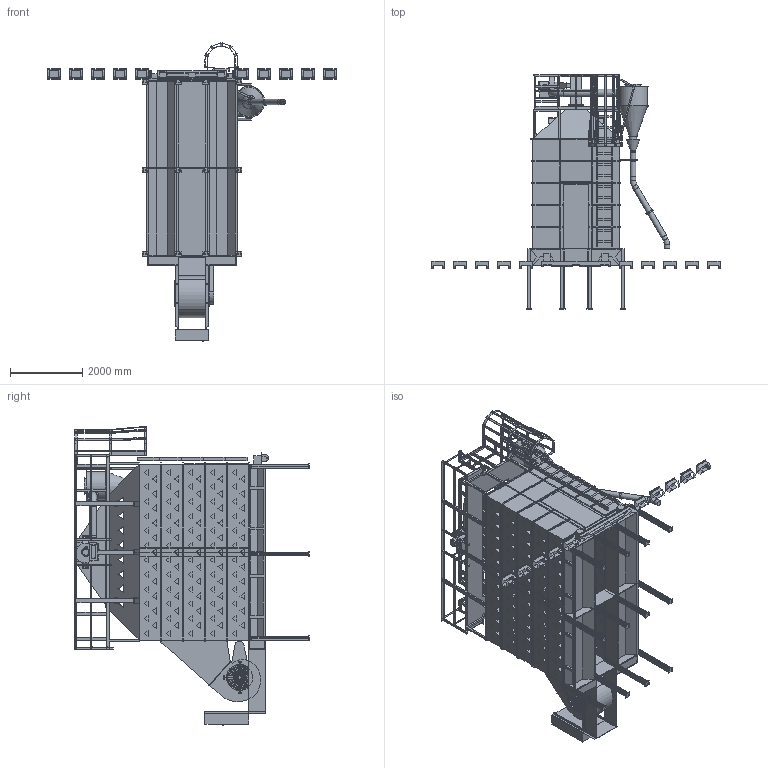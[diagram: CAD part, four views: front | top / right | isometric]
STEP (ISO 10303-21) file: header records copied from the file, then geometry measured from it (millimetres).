
FILE_DESCRIPTION(/* description */ ('PLAN AND ELEVATION VIEW FOR D1670 WITH ROOF & PRE-CLEANER'),/* implementation_level */ '2;1');
FILE_NAME(/* name */ 'C:\Engineering\Designs\Sales\Dryer\Workspaces\D16 All\D1670PC.stp',/* time_stamp */ '2025-01-06T16:41:23-06:00',/* author */ ('max.fleming'),/* organization */ (''),/* preprocessor_version */ 'ST-DEVELOPER v18.1',/* originating_system */ 'Autodesk Inventor 2022',/* authorisation */ '');
FILE_SCHEMA (('AUTOMOTIVE_DESIGN { 1 0 10303 214 3 1 1 }'));
Products named in the file (33): D1670PC; 16FT FRAME; 8FT LHRH FRAME; 16FT ROOF GF; 8FTRoof GF LHRH; 16FT BODY TIER; LH Body; RH Body; LH Body_MIR6; RH Body_MIR6; Outside Splice; Trans & Blower 16FT; Standard Size End Plenum Panels; Ladder 2' section; 6'' CROSS AUGER; Short Tongue; Leg Kit-02; 16FT PRE CLEANER RH DIS; 16FT Pre Cleaner Grav Assy; Aspirator Blower CCW; Aspirator Blower; NEMA MOTOR 182T; 16FT FULL CATWALK W PRE CLEANER MOUNTS; Pre-Cleaner Cyclone; 16FT Aspirator 8in Pipe; 6in PIPE SLEEVE 11L; 6IN ELBOW; 6in PIPE 60L; PIPE SUPPORT; Ladder Cage; 6IN HANGER; Belt Shield; Screen Guard 16
Assembly tree (58 placements, depth 4):
  D1670PC
    16FT FRAME
      8FT LHRH FRAME  x2
    16FT ROOF GF
      8FTRoof GF LHRH  x2
    16FT BODY TIER  x5
      LH Body
      RH Body
      LH Body_MIR6
      RH Body_MIR6
      Outside Splice
    Leg Kit-02  x12
    Trans & Blower 16FT
    Standard Size End Plenum Panels  x7
    Short Tongue
    16FT PRE CLEANER RH DIS
      16FT Pre Cleaner Grav Assy
      Aspirator Blower CCW
        Aspirator Blower
        NEMA MOTOR 182T
      16FT FULL CATWALK W PRE CLEANER MOUNTS
      Pre-Cleaner Cyclone
      16FT Aspirator 8in Pipe
    6in PIPE SLEEVE 11L
    6in PIPE 60L  x2
    6IN ELBOW  x2
    6IN HANGER  x2
    PIPE SUPPORT
    Ladder Cage
    Belt Shield
    Screen Guard 16  x2
  Ladder 2' section
  6'' CROSS AUGER
Bounding box: 8007.35 x 6510.74 x 8280.4 mm (x, y, z)
Volume: 31221946144.5 mm3; surface area: 479043952.1 mm2
Topology: 117 solids, 117 shells, 7342 faces, 20470 edges, 13397 vertices
Faces by surface type: plane 5668, cylinder 1622, bspline 34, torus 12, cone 4, sphere 2
Full cylindrical faces by diameter (mm): 10.319 x4, 11.112 x10, 12.7 x40, 15.875 x48, 28.575 x1, 38.1 x1, 44.45 x13, 50.8 x1, 95.25 x2, 127 x2, 139.7 x1, 150.622 x4, 152.4 x5, 154.051 x3, 155.575 x3, 190.5 x1, 196.85 x1, 198.12 x3, 203.2 x4, 204.851 x2, 206.375 x2, 215.9 x1, 228.6 x1, 248.92 x1, 254 x1, 273.05 x1, 317.5 x1, 393.7 x1, 406.4 x1, 469.9 x1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
Entity records: 135562 total; most frequent: CARTESIAN_POINT 24448, ORIENTED_EDGE 23284, DIRECTION 21481, EDGE_CURVE 11642, LINE 9833, VECTOR 9833, VERTEX_POINT 7614, AXIS2_PLACEMENT_3D 5824
